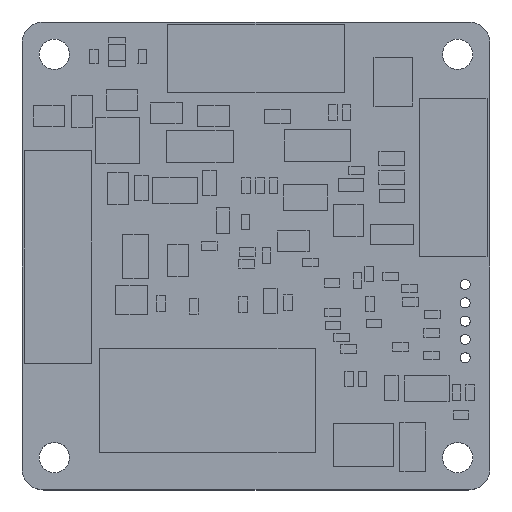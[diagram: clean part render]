
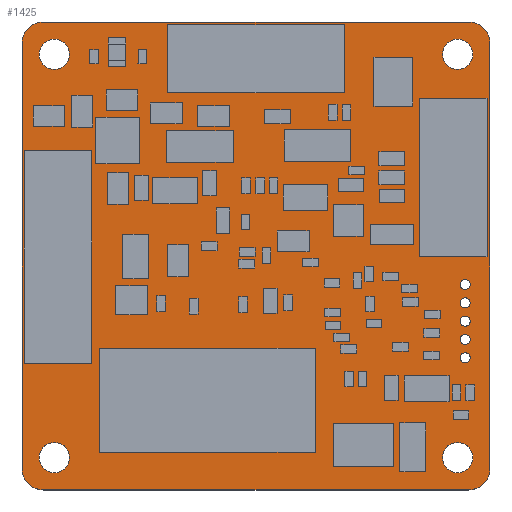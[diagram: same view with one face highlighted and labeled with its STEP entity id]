
A CAD part, top view. The second image highlights one B-rep face of the part: STEP entity #1425.
In plain terms, the highlighted planar face has unit normal (0, 0, 1).
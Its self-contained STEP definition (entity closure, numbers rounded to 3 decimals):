
#836 = VERTEX_POINT('',#837);
#837 = CARTESIAN_POINT('',(51.5,50.,1.529));
#843 = EDGE_CURVE('',#836,#844,#846,.T.);
#844 = VERTEX_POINT('',#845);
#845 = CARTESIAN_POINT('',(50.,51.5,1.529));
#846 = CIRCLE('',#847,1.499);
#847 = AXIS2_PLACEMENT_3D('',#848,#849,#850);
#848 = CARTESIAN_POINT('',(51.499,51.499,1.529));
#849 = DIRECTION('',(0.,0.,-1.));
#850 = DIRECTION('',(0.001,-1.,0.));
#876 = EDGE_CURVE('',#844,#877,#879,.T.);
#877 = VERTEX_POINT('',#878);
#878 = CARTESIAN_POINT('',(50.,81.,1.529));
#879 = LINE('',#880,#881);
#880 = CARTESIAN_POINT('',(50.,51.5,1.529));
#881 = VECTOR('',#882,1.);
#882 = DIRECTION('',(0.,1.,0.));
#907 = EDGE_CURVE('',#877,#908,#910,.T.);
#908 = VERTEX_POINT('',#909);
#909 = CARTESIAN_POINT('',(51.5,82.5,1.529));
#910 = CIRCLE('',#911,1.499);
#911 = AXIS2_PLACEMENT_3D('',#912,#913,#914);
#912 = CARTESIAN_POINT('',(51.499,81.001,1.529));
#913 = DIRECTION('',(0.,0.,-1.));
#914 = DIRECTION('',(-1.,-0.001,-0.));
#940 = EDGE_CURVE('',#908,#941,#943,.T.);
#941 = VERTEX_POINT('',#942);
#942 = CARTESIAN_POINT('',(81.,82.5,1.529));
#943 = LINE('',#944,#945);
#944 = CARTESIAN_POINT('',(51.5,82.5,1.529));
#945 = VECTOR('',#946,1.);
#946 = DIRECTION('',(1.,0.,0.));
#971 = EDGE_CURVE('',#941,#972,#974,.T.);
#972 = VERTEX_POINT('',#973);
#973 = CARTESIAN_POINT('',(82.5,81.,1.529));
#974 = CIRCLE('',#975,1.499);
#975 = AXIS2_PLACEMENT_3D('',#976,#977,#978);
#976 = CARTESIAN_POINT('',(81.001,81.001,1.529));
#977 = DIRECTION('',(0.,0.,-1.));
#978 = DIRECTION('',(-0.001,1.,0.));
#1004 = EDGE_CURVE('',#972,#1005,#1007,.T.);
#1005 = VERTEX_POINT('',#1006);
#1006 = CARTESIAN_POINT('',(82.5,51.5,1.529));
#1007 = LINE('',#1008,#1009);
#1008 = CARTESIAN_POINT('',(82.5,81.,1.529));
#1009 = VECTOR('',#1010,1.);
#1010 = DIRECTION('',(0.,-1.,0.));
#1035 = EDGE_CURVE('',#1005,#1036,#1038,.T.);
#1036 = VERTEX_POINT('',#1037);
#1037 = CARTESIAN_POINT('',(81.,50.,1.529));
#1038 = CIRCLE('',#1039,1.499);
#1039 = AXIS2_PLACEMENT_3D('',#1040,#1041,#1042);
#1040 = CARTESIAN_POINT('',(81.001,51.499,1.529)
  );
#1041 = DIRECTION('',(0.,0.,-1.));
#1042 = DIRECTION('',(1.,0.001,0.));
#1068 = EDGE_CURVE('',#1036,#836,#1069,.T.);
#1069 = LINE('',#1070,#1071);
#1070 = CARTESIAN_POINT('',(81.,50.,1.529));
#1071 = VECTOR('',#1072,1.);
#1072 = DIRECTION('',(-1.,0.,0.));
#1092 = VERTEX_POINT('',#1093);
#1093 = CARTESIAN_POINT('',(53.3,52.25,1.529));
#1099 = EDGE_CURVE('',#1092,#1092,#1100,.T.);
#1100 = CIRCLE('',#1101,1.05);
#1101 = AXIS2_PLACEMENT_3D('',#1102,#1103,#1104);
#1102 = CARTESIAN_POINT('',(52.25,52.25,1.529));
#1103 = DIRECTION('',(0.,0.,1.));
#1104 = DIRECTION('',(1.,0.,-0.));
#1125 = VERTEX_POINT('',#1126);
#1126 = CARTESIAN_POINT('',(81.3,52.25,1.529));
#1132 = EDGE_CURVE('',#1125,#1125,#1133,.T.);
#1133 = CIRCLE('',#1134,1.05);
#1134 = AXIS2_PLACEMENT_3D('',#1135,#1136,#1137);
#1135 = CARTESIAN_POINT('',(80.25,52.25,1.529));
#1136 = DIRECTION('',(0.,0.,1.));
#1137 = DIRECTION('',(1.,0.,-0.));
#1158 = VERTEX_POINT('',#1159);
#1159 = CARTESIAN_POINT('',(53.3,80.25,1.529));
#1165 = EDGE_CURVE('',#1158,#1158,#1166,.T.);
#1166 = CIRCLE('',#1167,1.05);
#1167 = AXIS2_PLACEMENT_3D('',#1168,#1169,#1170);
#1168 = CARTESIAN_POINT('',(52.25,80.25,1.529));
#1169 = DIRECTION('',(0.,0.,1.));
#1170 = DIRECTION('',(1.,0.,-0.));
#1191 = VERTEX_POINT('',#1192);
#1192 = CARTESIAN_POINT('',(81.3,80.25,1.529));
#1198 = EDGE_CURVE('',#1191,#1191,#1199,.T.);
#1199 = CIRCLE('',#1200,1.05);
#1200 = AXIS2_PLACEMENT_3D('',#1201,#1202,#1203);
#1201 = CARTESIAN_POINT('',(80.25,80.25,1.529));
#1202 = DIRECTION('',(0.,0.,1.));
#1203 = DIRECTION('',(1.,0.,-0.));
#1224 = VERTEX_POINT('',#1225);
#1225 = CARTESIAN_POINT('',(81.13,60.452,1.529));
#1231 = EDGE_CURVE('',#1224,#1224,#1232,.T.);
#1232 = CIRCLE('',#1233,0.35);
#1233 = AXIS2_PLACEMENT_3D('',#1234,#1235,#1236);
#1234 = CARTESIAN_POINT('',(80.78,60.452,1.529));
#1235 = DIRECTION('',(0.,0.,1.));
#1236 = DIRECTION('',(1.,0.,-0.));
#1257 = VERTEX_POINT('',#1258);
#1258 = CARTESIAN_POINT('',(81.13,59.182,1.529));
#1264 = EDGE_CURVE('',#1257,#1257,#1265,.T.);
#1265 = CIRCLE('',#1266,0.35);
#1266 = AXIS2_PLACEMENT_3D('',#1267,#1268,#1269);
#1267 = CARTESIAN_POINT('',(80.78,59.182,1.529));
#1268 = DIRECTION('',(0.,0.,1.));
#1269 = DIRECTION('',(1.,0.,-0.));
#1290 = VERTEX_POINT('',#1291);
#1291 = CARTESIAN_POINT('',(81.13,64.262,1.529));
#1297 = EDGE_CURVE('',#1290,#1290,#1298,.T.);
#1298 = CIRCLE('',#1299,0.35);
#1299 = AXIS2_PLACEMENT_3D('',#1300,#1301,#1302);
#1300 = CARTESIAN_POINT('',(80.78,64.262,1.529));
#1301 = DIRECTION('',(0.,0.,1.));
#1302 = DIRECTION('',(1.,0.,-0.));
#1323 = VERTEX_POINT('',#1324);
#1324 = CARTESIAN_POINT('',(81.13,61.722,1.529));
#1330 = EDGE_CURVE('',#1323,#1323,#1331,.T.);
#1331 = CIRCLE('',#1332,0.35);
#1332 = AXIS2_PLACEMENT_3D('',#1333,#1334,#1335);
#1333 = CARTESIAN_POINT('',(80.78,61.722,1.529));
#1334 = DIRECTION('',(0.,0.,1.));
#1335 = DIRECTION('',(1.,0.,-0.));
#1356 = VERTEX_POINT('',#1357);
#1357 = CARTESIAN_POINT('',(81.13,62.992,1.529));
#1363 = EDGE_CURVE('',#1356,#1356,#1364,.T.);
#1364 = CIRCLE('',#1365,0.35);
#1365 = AXIS2_PLACEMENT_3D('',#1366,#1367,#1368);
#1366 = CARTESIAN_POINT('',(80.78,62.992,1.529));
#1367 = DIRECTION('',(0.,0.,1.));
#1368 = DIRECTION('',(1.,0.,-0.));
#1425 = ADVANCED_FACE('',(#1426,#1436,#1439,#1442,#1445,#1448,#1451,
    #1454,#1457,#1460),#1463,.F.);
#1426 = FACE_BOUND('',#1427,.F.);
#1427 = EDGE_LOOP('',(#1428,#1429,#1430,#1431,#1432,#1433,#1434,#1435));
#1428 = ORIENTED_EDGE('',*,*,#843,.T.);
#1429 = ORIENTED_EDGE('',*,*,#876,.T.);
#1430 = ORIENTED_EDGE('',*,*,#907,.T.);
#1431 = ORIENTED_EDGE('',*,*,#940,.T.);
#1432 = ORIENTED_EDGE('',*,*,#971,.T.);
#1433 = ORIENTED_EDGE('',*,*,#1004,.T.);
#1434 = ORIENTED_EDGE('',*,*,#1035,.T.);
#1435 = ORIENTED_EDGE('',*,*,#1068,.T.);
#1436 = FACE_BOUND('',#1437,.F.);
#1437 = EDGE_LOOP('',(#1438));
#1438 = ORIENTED_EDGE('',*,*,#1099,.T.);
#1439 = FACE_BOUND('',#1440,.F.);
#1440 = EDGE_LOOP('',(#1441));
#1441 = ORIENTED_EDGE('',*,*,#1132,.T.);
#1442 = FACE_BOUND('',#1443,.F.);
#1443 = EDGE_LOOP('',(#1444));
#1444 = ORIENTED_EDGE('',*,*,#1165,.T.);
#1445 = FACE_BOUND('',#1446,.F.);
#1446 = EDGE_LOOP('',(#1447));
#1447 = ORIENTED_EDGE('',*,*,#1198,.T.);
#1448 = FACE_BOUND('',#1449,.F.);
#1449 = EDGE_LOOP('',(#1450));
#1450 = ORIENTED_EDGE('',*,*,#1231,.T.);
#1451 = FACE_BOUND('',#1452,.F.);
#1452 = EDGE_LOOP('',(#1453));
#1453 = ORIENTED_EDGE('',*,*,#1264,.T.);
#1454 = FACE_BOUND('',#1455,.F.);
#1455 = EDGE_LOOP('',(#1456));
#1456 = ORIENTED_EDGE('',*,*,#1297,.T.);
#1457 = FACE_BOUND('',#1458,.F.);
#1458 = EDGE_LOOP('',(#1459));
#1459 = ORIENTED_EDGE('',*,*,#1330,.T.);
#1460 = FACE_BOUND('',#1461,.F.);
#1461 = EDGE_LOOP('',(#1462));
#1462 = ORIENTED_EDGE('',*,*,#1363,.T.);
#1463 = PLANE('',#1464);
#1464 = AXIS2_PLACEMENT_3D('',#1465,#1466,#1467);
#1465 = CARTESIAN_POINT('',(66.25,66.25,1.529));
#1466 = DIRECTION('',(-0.,-0.,-1.));
#1467 = DIRECTION('',(-1.,0.,0.));
